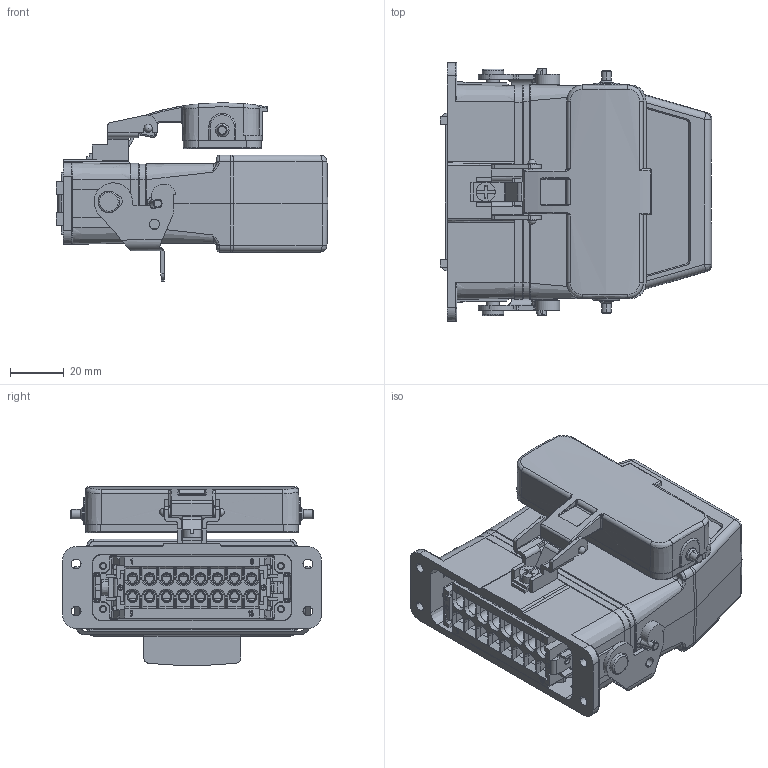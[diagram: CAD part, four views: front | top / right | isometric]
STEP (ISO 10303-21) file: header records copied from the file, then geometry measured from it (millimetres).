
FILE_DESCRIPTION (( 'STEP AP203' ), '1' );
FILE_NAME ('09016002125 H16A HA、16针、开孔底座、顶出M25套件、配塑料接头.STEP', '2024-04-22T08:52:13', ( 'L' ), ( '' ), 'SwSTEP 2.0', 'SolidWorks 2019', '' );
FILE_SCHEMA (( 'CONFIG_CONTROL_DESIGN' ));
Length unit declared in the file: millimetre
Products named in the file (7): h16a-ad.stp; HA-016-F.stp; H16A-TGH-M25.step; HA-016-M.stp; H16A-AD_220214_ASM.stp; ____9_09016001125.stp; 09016002125 H16A HA、16针、开孔底座、顶出M25套件、配塑料接头
Assembly tree (6 placements, depth 4):
  09016002125 H16A HA、16针、开孔底座、顶出M25套件、配塑料接头
    h16a-ad.stp
      H16A-AD_220214_ASM.stp
        ____9_09016001125.stp
    HA-016-F.stp
    HA-016-M.stp
    H16A-TGH-M25.step
Bounding box: 100.76 x 96.12 x 66.31 mm (x, y, z)
Volume: 149498.8 mm3; surface area: 101135.3 mm2
Topology: 4 solids, 6 shells, 3820 faces, 10058 edges, 6462 vertices
Faces by surface type: plane 1959, cylinder 1039, cone 341, bspline 268, torus 175, sphere 38
Entity records: 137923 total; most frequent: CARTESIAN_POINT 44908, ORIENTED_EDGE 19972, DIRECTION 18250, EDGE_CURVE 9986, VERTEX_POINT 6422, AXIS2_PLACEMENT_3D 6193, LINE 5864, VECTOR 5864
